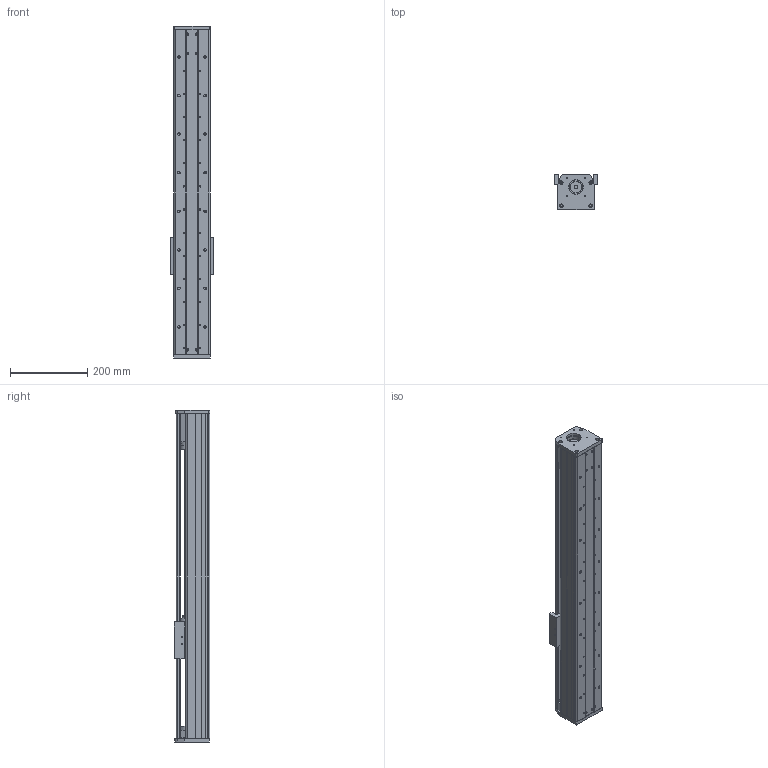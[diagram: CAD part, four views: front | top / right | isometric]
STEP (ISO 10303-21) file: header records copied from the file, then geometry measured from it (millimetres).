
FILE_DESCRIPTION (( 'STEP AP203' ), '1' );
FILE_NAME ('CF95-2-P600.STEP', '2016-02-22T07:34:01', ( 'Sky123.Org' ), ( 'Sky123.Org' ), 'SwSTEP 2.0', 'SolidWorks 2015', '' );
FILE_SCHEMA (( 'CONFIG_CONTROL_DESIGN' ));
Length unit declared in the file: millimetre
Products named in the file (19): 95盓厥傷; SFS1610-520; 坶踡蹟譫M12-1; 95裔啣-1; 95-2邧寢賑輸; HGR15絳寢; SFU1604-3; hGH15CA賑輸; 95滅袉蝶菜; CF95-57萇儂假蚾啣; 95-2耜啣; CF95固定座（配30-42联轴器）; deep groove ball bearings gb_Rolling bearings 6001 GB 276-94; angular contact ball bearings gb_Rolling bearings S7001 GB 292-94; CF95-2臏倰第; circlips for shaft--type a large gb_GB_CONNECTING_PIECE_RING_RRA 12; 30-42薊粣ん; 95粣創裔啣; CF95-2-P600
Assembly tree (22 placements, depth 2):
  CF95-2-P600
    CF95-2臏倰第
    95粣創裔啣
    SFS1610-520
    95裔啣-1
    HGR15絳寢  x2
    hGH15CA賑輸  x2
    CF95-57萇儂假蚾啣
    CF95固定座（配30-42联轴器）
    angular contact ball bearings gb_Rolling bearings S7001 GB 292-94  x2
    30-42薊粣ん
    95盓厥傷
    坶踡蹟譫M12-1
    95-2邧寢賑輸
    SFU1604-3
    95滅袉蝶菜  x2
    95-2耜啣
    deep groove ball bearings gb_Rolling bearings 6001 GB 276-94
    circlips for shaft--type a large gb_GB_CONNECTING_PIECE_RING_RRA 12
Bounding box: 110 x 92.5 x 861 mm (x, y, z)
Volume: 2866237.6 mm3; surface area: 909608.6 mm2
Topology: 22 solids, 22 shells, 1377 faces, 4362 edges, 2902 vertices
Faces by surface type: cylinder 595, plane 528, torus 159, sphere 84, cone 10, bspline 1
Entity records: 44560 total; most frequent: CARTESIAN_POINT 11692, ORIENTED_EDGE 6570, DIRECTION 6476, EDGE_CURVE 3285, AXIS2_PLACEMENT_3D 2559, VERTEX_POINT 2179, EDGE_LOOP 1420, CIRCLE 1409
